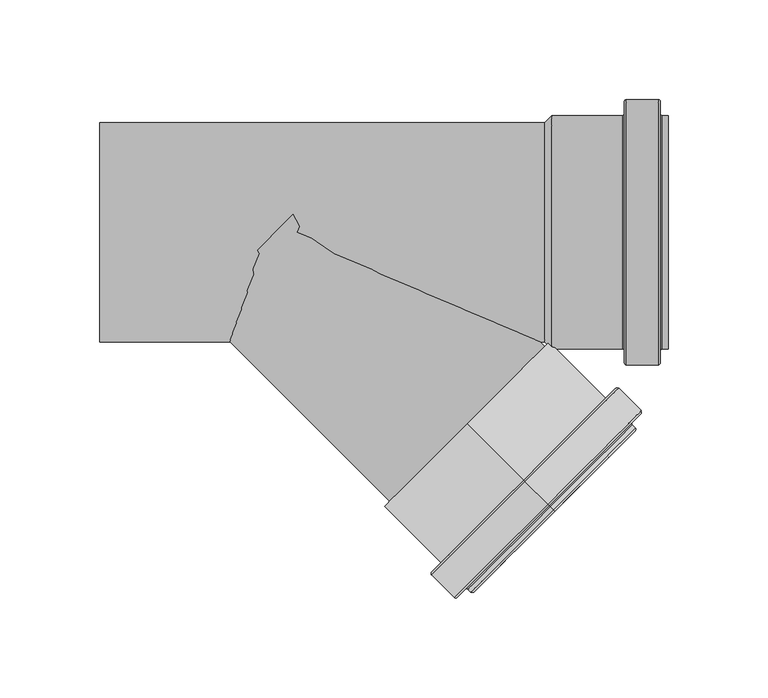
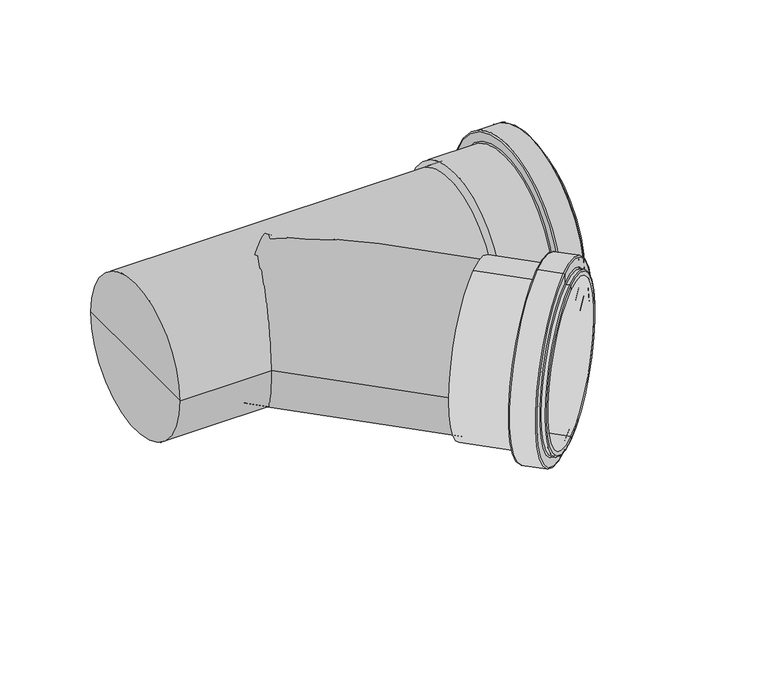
"""IFC4 building model written with IfcOpenShell, lengths in millimetres: pipe fitting geometry, MarleyPlumbingAndDrainage_PipeFitting_dBlueEqualBranch_VTR : VTR-110-110-45D - 110mm - Blue."""

from ifc_helpers import new_model, si_unit, point, frame, origin, origin_2d, place, context, project, spatial, polyline, circle_curve, ellipse_curve, trimmed, segment, composite_curve, outline, extrude, source, transform, mapped, element, save
from ifc_brep_helpers import plane_surface, cylinder_surface, revolved_surface, advanced_brep


def pipe_fitting_c605c0b5(model_context):
    return source(origin(), model_context, "Body", "SolidModel", [
        advanced_brep(
        [(81.3411404, -96.1665222, -58.5), (81.3411404, -96.1665222, 58.5), (81.3411404, -96.1665222, 55.0), (81.3411404, -96.1665222, -55.0), (109.6254117, -124.4507935, -58.5), (109.6254117, -124.4507935, 58.5), (109.6254117, -124.4507935, -65.5), (109.6254117, -124.4507935, 65.5), (121.6462269, -136.4716088, -66.5), (121.6462269, -136.4716088, 66.5), (110.3325184, -125.1579003, 66.5), (110.3325184, -125.1579003, -66.5), (122.3533337, -137.1787156, -59.5), (122.3533337, -137.1787156, 59.5), (122.3533337, -137.1787156, 65.5), (122.3533337, -137.1787156, -65.5), (124.4746541, -139.3000359, -58.5), (124.4746541, -139.3000359, 58.5), (123.0604405, -137.8858223, 58.5), (123.0604405, -137.8858223, -58.5), (125.1817609, -140.0071427, -55.0), (125.1817609, -140.0071427, 55.0), (125.1817609, -140.0071427, 57.5), (125.1817609, -140.0071427, -57.5)],
        [
            (0, 1, circle_curve(frame((81.3411404, -96.1665222, 0.0), z_axis=(-0.7071067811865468, 0.7071067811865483, 0.0), x_axis=(0.0, 0.0, 1.0000000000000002)), 58.5)),
            (1, 2),
            (2, 3, circle_curve(frame((81.3411404, -96.1665222, 0.0), z_axis=(0.7071067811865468, -0.7071067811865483, 0.0), x_axis=(0.0, 0.0, 1.0000000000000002)), 55.0)),
            (3, 0),
            (1, 0, circle_curve(frame((81.3411404, -96.1665222, 0.0), z_axis=(-0.7071067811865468, 0.7071067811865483, 0.0), x_axis=(0.0, 0.0, 1.0000000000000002)), 58.5)),
            (3, 2, circle_curve(frame((81.3411404, -96.1665222, 0.0), z_axis=(0.7071067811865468, -0.7071067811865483, 0.0), x_axis=(0.0, 0.0, 1.0000000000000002)), 55.0)),
            (4, 5, circle_curve(frame((109.6254117, -124.4507935, 0.0), z_axis=(-0.7071067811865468, 0.7071067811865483, 0.0), x_axis=(0.0, 0.0, 1.0000000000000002)), 58.5)),
            (5, 1),
            (0, 4),
            (5, 4, circle_curve(frame((109.6254117, -124.4507935, 0.0), z_axis=(-0.7071067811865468, 0.7071067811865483, 0.0), x_axis=(0.0, 0.0, 1.0000000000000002)), 58.5)),
            (6, 7, circle_curve(frame((109.6254117, -124.4507935, 0.0), z_axis=(-0.7071067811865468, 0.7071067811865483, 0.0), x_axis=(0.0, 0.0, 1.0000000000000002)), 65.5)),
            (7, 5),
            (4, 6),
            (7, 6, circle_curve(frame((109.6254117, -124.4507935, 0.0), z_axis=(-0.7071067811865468, 0.7071067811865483, 0.0), x_axis=(0.0, 0.0, 1.0000000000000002)), 65.5)),
            (8, 9, circle_curve(frame((121.6462269, -136.4716088, 0.0), z_axis=(-0.7071067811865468, 0.7071067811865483, 0.0), x_axis=(0.0, 0.0, 1.0000000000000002)), 66.5)),
            (9, 10),
            (10, 11, circle_curve(frame((110.3325184, -125.1579003, 0.0), z_axis=(0.7071067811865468, -0.7071067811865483, 0.0), x_axis=(0.0, 0.0, 1.0000000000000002)), 66.5)),
            (11, 8),
            (9, 8, circle_curve(frame((121.6462269, -136.4716088, 0.0), z_axis=(-0.7071067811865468, 0.7071067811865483, 0.0), x_axis=(0.0, 0.0, 1.0000000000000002)), 66.5)),
            (11, 10, circle_curve(frame((110.3325184, -125.1579003, 0.0), z_axis=(0.7071067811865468, -0.7071067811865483, 0.0), x_axis=(0.0, 0.0, 1.0000000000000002)), 66.5)),
            (12, 13, circle_curve(frame((122.3533337, -137.1787156, 0.0), z_axis=(-0.7071067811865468, 0.7071067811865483, 0.0), x_axis=(0.0, 0.0, 1.0000000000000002)), 59.5)),
            (13, 14),
            (14, 15, circle_curve(frame((122.3533337, -137.1787156, 0.0), z_axis=(0.7071067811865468, -0.7071067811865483, 0.0), x_axis=(0.0, 0.0, 1.0000000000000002)), 65.5)),
            (15, 12),
            (13, 12, circle_curve(frame((122.3533337, -137.1787156, 0.0), z_axis=(-0.7071067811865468, 0.7071067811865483, 0.0), x_axis=(0.0, 0.0, 1.0000000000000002)), 59.5)),
            (15, 14, circle_curve(frame((122.3533337, -137.1787156, 0.0), z_axis=(0.7071067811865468, -0.7071067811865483, 0.0), x_axis=(0.0, 0.0, 1.0000000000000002)), 65.5)),
            (16, 17, circle_curve(frame((124.4746541, -139.3000359, 0.0), z_axis=(-0.7071067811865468, 0.7071067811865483, 0.0), x_axis=(0.0, 0.0, 1.0000000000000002)), 58.5)),
            (17, 18),
            (18, 19, circle_curve(frame((123.0604405, -137.8858223, 0.0), z_axis=(0.7071067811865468, -0.7071067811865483, 0.0), x_axis=(0.0, 0.0, 1.0000000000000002)), 58.5)),
            (19, 16),
            (17, 16, circle_curve(frame((124.4746541, -139.3000359, 0.0), z_axis=(-0.7071067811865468, 0.7071067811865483, 0.0), x_axis=(0.0, 0.0, 1.0000000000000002)), 58.5)),
            (19, 18, circle_curve(frame((123.0604405, -137.8858223, 0.0), z_axis=(0.7071067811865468, -0.7071067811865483, 0.0), x_axis=(0.0, 0.0, 1.0000000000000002)), 58.5)),
            (20, 21, circle_curve(frame((125.1817609, -140.0071427, 0.0), z_axis=(-0.7071067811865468, 0.7071067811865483, 0.0), x_axis=(0.0, 0.0, 1.0000000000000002)), 55.0)),
            (21, 22),
            (22, 23, circle_curve(frame((125.1817609, -140.0071427, 0.0), z_axis=(0.7071067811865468, -0.7071067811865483, 0.0), x_axis=(0.0, 0.0, 1.0000000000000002)), 57.5)),
            (23, 20),
            (21, 20, circle_curve(frame((125.1817609, -140.0071427, 0.0), z_axis=(-0.7071067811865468, 0.7071067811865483, 0.0), x_axis=(0.0, 0.0, 1.0000000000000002)), 55.0)),
            (23, 22, circle_curve(frame((125.1817609, -140.0071427, 0.0), z_axis=(0.7071067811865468, -0.7071067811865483, 0.0), x_axis=(0.0, 0.0, 1.0000000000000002)), 57.5)),
            (2, 21),
            (20, 3),
            (10, 7, circle_curve(frame((110.3325184, -125.1579003, 65.5), z_axis=(-0.7071067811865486, -0.707106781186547, 0.0), x_axis=(0.4999999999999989, -0.5, 0.7071067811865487)), 1.0)),
            (6, 11, circle_curve(frame((110.3325184, -125.1579003, -65.5), z_axis=(-0.7071067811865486, -0.707106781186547, 0.0), x_axis=(0.5000000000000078, -0.5000000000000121, -0.7071067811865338)), 1.0)),
            (14, 9, circle_curve(frame((121.6462269, -136.4716088, 65.5), z_axis=(-0.7071067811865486, -0.707106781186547, 0.0), x_axis=(0.4999999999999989, -0.5, 0.7071067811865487)), 1.0)),
            (8, 15, circle_curve(frame((121.6462269, -136.4716088, -65.5), z_axis=(-0.7071067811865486, -0.707106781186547, 0.0), x_axis=(0.5000000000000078, -0.5000000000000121, -0.7071067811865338)), 1.0)),
            (18, 13, circle_curve(frame((123.0604405, -137.8858223, 59.5), z_axis=(0.7071067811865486, 0.707106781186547, 0.0), x_axis=(0.4999999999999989, -0.5, 0.7071067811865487)), 1.0)),
            (12, 19, circle_curve(frame((123.0604405, -137.8858223, -59.5), z_axis=(0.7071067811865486, 0.707106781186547, 0.0), x_axis=(0.5000000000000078, -0.5000000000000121, -0.7071067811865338)), 1.0)),
            (22, 17, circle_curve(frame((124.4746541, -139.3000359, 57.5), z_axis=(-0.7071067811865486, -0.707106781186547, 0.0), x_axis=(0.4999999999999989, -0.5, 0.7071067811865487)), 1.0)),
            (16, 23, circle_curve(frame((124.4746541, -139.3000359, -57.5), z_axis=(-0.7071067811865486, -0.707106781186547, 0.0), x_axis=(0.5000000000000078, -0.5000000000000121, -0.7071067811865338)), 1.0)),
        ],
        [
            plane_surface(frame((81.3411404, -96.1665222, 0.0), z_axis=(-0.7071067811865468, 0.7071067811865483, 0.0), x_axis=(0.0, 0.0, 1.0))),
            cylinder_surface(frame((159.8299931, -174.655375, 0.0), z_axis=(0.7071067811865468, -0.7071067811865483, 0.0), x_axis=(0.0, 0.0, 1.0000000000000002)), 58.5),
            plane_surface(frame((109.6254117, -124.4507935, 0.0), z_axis=(-0.7071067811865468, 0.7071067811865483, 0.0), x_axis=(0.0, 0.0, 1.0))),
            cylinder_surface(frame((159.8299931, -174.655375, 0.0), z_axis=(0.7071067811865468, -0.7071067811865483, 0.0), x_axis=(0.0, 0.0, 1.0000000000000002)), 66.5),
            plane_surface(frame((122.3533337, -137.1787156, 0.0), z_axis=(0.7071067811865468, -0.7071067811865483, 0.0), x_axis=(0.0, 0.0, 1.0))),
            plane_surface(frame((125.1817609, -140.0071427, 0.0), z_axis=(0.7071067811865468, -0.7071067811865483, 0.0), x_axis=(0.0, 0.0, 1.0))),
            revolved_surface(polyline([(125.18176085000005, -140.00714274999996, 55.000000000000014), (81.34114035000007, -96.1665222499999, 55.000000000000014)]), (159.8299931, -174.655375, 0.0), (0.7071067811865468, -0.7071067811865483, 0.0)),
            revolved_surface(trimmed(ellipse_curve(frame((110.3325184, -125.1579003, 65.5), z_axis=(0.7071067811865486, 0.707106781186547, 0.0), x_axis=(0.4999999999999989, -0.5, 0.7071067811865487)), 1.0, 1.0), [point((109.6254117, -124.4507935, 65.5))], [point((110.3325184, -125.1579003, 66.5))], True, "CARTESIAN"), (159.8299931, -174.655375, 0.0), (0.7071067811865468, -0.7071067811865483, 0.0)),
            revolved_surface(trimmed(ellipse_curve(frame((110.3325184, -125.1579003, 65.5), z_axis=(0.7071067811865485, 0.7071067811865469, 0.0), x_axis=(0.4999999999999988, -0.4999999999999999, 0.7071067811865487)), 1.0, 1.0), [point((109.6254117, -124.4507935, 65.5))], [point((110.3325184, -125.1579003, 66.5))], True, "CARTESIAN"), (159.8299931, -174.655375, 0.0), (0.7071067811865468, -0.7071067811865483, 0.0)),
            revolved_surface(trimmed(ellipse_curve(frame((121.6462269, -136.4716088, 65.5), z_axis=(0.7071067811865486, 0.707106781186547, 0.0), x_axis=(0.4999999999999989, -0.5, 0.7071067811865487)), 1.0, 1.0), [point((121.6462269, -136.4716088, 66.5))], [point((122.3533337, -137.1787156, 65.5))], True, "CARTESIAN"), (159.8299931, -174.655375, 0.0), (0.7071067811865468, -0.7071067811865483, 0.0)),
            revolved_surface(trimmed(ellipse_curve(frame((121.6462269, -136.4716088, 65.5), z_axis=(0.7071067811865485, 0.7071067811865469, 0.0), x_axis=(0.4999999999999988, -0.4999999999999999, 0.7071067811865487)), 1.0, 1.0), [point((121.6462269, -136.4716088, 66.5))], [point((122.3533337, -137.1787156, 65.5))], True, "CARTESIAN"), (159.8299931, -174.655375, 0.0), (0.7071067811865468, -0.7071067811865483, 0.0)),
            revolved_surface(trimmed(ellipse_curve(frame((123.0604405, -137.8858223, 59.5), z_axis=(-0.7071067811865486, -0.707106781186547, 0.0), x_axis=(0.4999999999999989, -0.5, 0.7071067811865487)), 1.0, 1.0), [point((122.3533337, -137.1787156, 59.5))], [point((123.0604405, -137.8858223, 58.5))], True, "CARTESIAN"), (159.8299931, -174.655375, 0.0), (0.7071067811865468, -0.7071067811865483, 0.0)),
            revolved_surface(trimmed(ellipse_curve(frame((123.0604405, -137.8858223, 59.5), z_axis=(-0.7071067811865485, -0.7071067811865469, 0.0), x_axis=(0.4999999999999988, -0.4999999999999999, 0.7071067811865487)), 1.0, 1.0), [point((122.3533337, -137.1787156, 59.5))], [point((123.0604405, -137.8858223, 58.5))], True, "CARTESIAN"), (159.8299931, -174.655375, 0.0), (0.7071067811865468, -0.7071067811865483, 0.0)),
            revolved_surface(trimmed(ellipse_curve(frame((124.4746541, -139.3000359, 57.5), z_axis=(0.7071067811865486, 0.707106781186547, 0.0), x_axis=(0.4999999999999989, -0.5, 0.7071067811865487)), 1.0, 1.0), [point((124.4746541, -139.3000359, 58.5))], [point((125.1817609, -140.0071427, 57.5))], True, "CARTESIAN"), (159.8299931, -174.655375, 0.0), (0.7071067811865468, -0.7071067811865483, 0.0)),
            revolved_surface(trimmed(ellipse_curve(frame((124.4746541, -139.3000359, 57.5), z_axis=(0.7071067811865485, 0.7071067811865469, 0.0), x_axis=(0.4999999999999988, -0.4999999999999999, 0.7071067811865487)), 1.0, 1.0), [point((124.4746541, -139.3000359, 58.5))], [point((125.1817609, -140.0071427, 57.5))], True, "CARTESIAN"), (159.8299931, -174.655375, 0.0), (0.7071067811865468, -0.7071067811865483, 0.0)),
        ],
        [
            (0, [[1, 2, 3, 4]]),
            (0, [[5, -4, 6, -2]]),
            (1, [[7, 8, -1, 9]]),
            (1, [[10, -9, -5, -8]]),
            (2, [[11, 12, -7, 13]]),
            (2, [[14, -13, -10, -12]]),
            (3, [[15, 16, 17, 18]]),
            (3, [[19, -18, 20, -16]]),
            (4, [[21, 22, 23, 24]]),
            (4, [[25, -24, 26, -22]]),
            (1, [[27, 28, 29, 30]]),
            (1, [[31, -30, 32, -28]]),
            (5, [[33, 34, 35, 36]]),
            (5, [[37, -36, 38, -34]]),
            (6, [[-3, 39, -33, 40]]),
            (6, [[-6, -40, -37, -39]]),
            (7, [[-17, 41, -11, 42]]),
            (8, [[-20, -42, -14, -41]]),
            (9, [[-23, 43, -15, 44]]),
            (10, [[-26, -44, -19, -43]]),
            (11, [[-29, 45, -21, 46]]),
            (12, [[-32, -46, -25, -45]]),
            (13, [[-35, 47, -27, 48]]),
            (14, [[-38, -48, -31, -47]]),
        ],
    ),
        extrude(outline(composite_curve([segment(trimmed(circle_curve(origin_2d(), 55.0), [point((0.0, -55.0))], [point((0.0, 55.0))], False, "CARTESIAN"), True, "CONTINUOUS"), segment(trimmed(circle_curve(origin_2d(), 55.0), [point((0.0, 55.0))], [point((0.0, -55.0))], False, "CARTESIAN"), True, "CONTINUOUS")], self_intersect=False)), frame((81.3411404, -96.1665222, 0.0), z_axis=(-0.7071067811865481, 0.707106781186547, 0.0), x_axis=(0.0, 0.0, 1.0)), (0.0, 0.0, 1.0), 136.0),
        advanced_brep(
        [(179.1746182, -58.5, 0.0), (179.1746182, 58.5, 0.0), (182.1746182, 58.5, 0.0), (182.1746182, -58.5, 0.0), (178.1746182, -65.5, 0.0), (178.1746182, 65.5, 0.0), (178.1746182, 59.5, 0.0), (178.1746182, -59.5, 0.0), (161.1746182, -66.5, 0.0), (161.1746182, 66.5, 0.0), (177.1746182, 66.5, 0.0), (177.1746182, -66.5, 0.0), (160.1746182, -59.5, 0.0), (160.1746182, 59.5, 0.0), (160.1746182, 65.5, 0.0), (160.1746182, -65.5, 0.0), (123.6746182, -58.5, 0.0), (123.6746182, 58.5, 0.0), (159.1746182, 58.5, 0.0), (159.1746182, -58.5, 0.0), (120.1746182, -55.0, 0.0), (120.1746182, 55.0, 0.0), (-102.8253818, -55.0, 0.0), (-102.8253818, 55.0, 0.0), (-102.8253818, 0.0, 0.0), (123.6746182, -55.0, 0.0), (123.6746182, 55.0, 0.0), (123.6746182, 0.0, 0.0), (182.1746182, -55.0, 0.0), (182.1746182, 55.0, 0.0)],
        [
            (0, 1, circle_curve(frame((179.1746182, 0.0, 0.0), z_axis=(1.0, 0.0, 0.0), x_axis=(0.0, 1.0, 0.0)), 58.5)),
            (1, 2),
            (2, 3, circle_curve(frame((182.1746182, 0.0, 0.0), z_axis=(-1.0, 0.0, 0.0), x_axis=(0.0, 1.0, 0.0)), 58.5)),
            (3, 0),
            (1, 0, circle_curve(frame((179.1746182, 0.0, 0.0), z_axis=(1.0, 0.0, 0.0), x_axis=(0.0, 1.0, 0.0)), 58.5)),
            (3, 2, circle_curve(frame((182.1746182, 0.0, 0.0), z_axis=(-1.0, 0.0, 0.0), x_axis=(0.0, 1.0, 0.0)), 58.5)),
            (4, 5, circle_curve(frame((178.1746182, 0.0, 0.0), z_axis=(1.0, 0.0, 0.0), x_axis=(0.0, 1.0, 0.0)), 65.5)),
            (5, 6),
            (6, 7, circle_curve(frame((178.1746182, 0.0, 0.0), z_axis=(-1.0, 0.0, 0.0), x_axis=(0.0, 1.0, 0.0)), 59.5)),
            (7, 4),
            (5, 4, circle_curve(frame((178.1746182, 0.0, 0.0), z_axis=(1.0, 0.0, 0.0), x_axis=(0.0, 1.0, 0.0)), 65.5)),
            (7, 6, circle_curve(frame((178.1746182, 0.0, 0.0), z_axis=(-1.0, 0.0, 0.0), x_axis=(0.0, 1.0, 0.0)), 59.5)),
            (8, 9, circle_curve(frame((161.1746182, 0.0, 0.0), z_axis=(1.0, 0.0, 0.0), x_axis=(0.0, 1.0, 0.0)), 66.5)),
            (9, 10),
            (10, 11, circle_curve(frame((177.1746182, 0.0, 0.0), z_axis=(-1.0, 0.0, 0.0), x_axis=(0.0, 1.0, 0.0)), 66.5)),
            (11, 8),
            (9, 8, circle_curve(frame((161.1746182, 0.0, 0.0), z_axis=(1.0, 0.0, 0.0), x_axis=(0.0, 1.0, 0.0)), 66.5)),
            (11, 10, circle_curve(frame((177.1746182, 0.0, 0.0), z_axis=(-1.0, 0.0, 0.0), x_axis=(0.0, 1.0, 0.0)), 66.5)),
            (12, 13, circle_curve(frame((160.1746182, 0.0, 0.0), z_axis=(1.0, 0.0, 0.0), x_axis=(0.0, 1.0, 0.0)), 59.5)),
            (13, 14),
            (14, 15, circle_curve(frame((160.1746182, 0.0, 0.0), z_axis=(-1.0, 0.0, 0.0), x_axis=(0.0, 1.0, 0.0)), 65.5)),
            (15, 12),
            (13, 12, circle_curve(frame((160.1746182, 0.0, 0.0), z_axis=(1.0, 0.0, 0.0), x_axis=(0.0, 1.0, 0.0)), 59.5)),
            (15, 14, circle_curve(frame((160.1746182, 0.0, 0.0), z_axis=(-1.0, 0.0, 0.0), x_axis=(0.0, 1.0, 0.0)), 65.5)),
            (16, 17, circle_curve(frame((123.6746182, 0.0, 0.0), z_axis=(1.0, 0.0, 0.0), x_axis=(0.0, 1.0, 0.0)), 58.5)),
            (17, 18),
            (18, 19, circle_curve(frame((159.1746182, 0.0, 0.0), z_axis=(-1.0, 0.0, 0.0), x_axis=(0.0, 1.0, 0.0)), 58.5)),
            (19, 16),
            (17, 16, circle_curve(frame((123.6746182, 0.0, 0.0), z_axis=(1.0, 0.0, 0.0), x_axis=(0.0, 1.0, 0.0)), 58.5)),
            (19, 18, circle_curve(frame((159.1746182, 0.0, 0.0), z_axis=(-1.0, 0.0, 0.0), x_axis=(0.0, 1.0, 0.0)), 58.5)),
            (20, 21, circle_curve(frame((120.1746182, 0.0, 0.0), z_axis=(1.0, 0.0, 0.0), x_axis=(0.0, 1.0, 0.0)), 55.0)),
            (21, 17),
            (16, 20),
            (21, 20, circle_curve(frame((120.1746182, 0.0, 0.0), z_axis=(1.0, 0.0, 0.0), x_axis=(0.0, 1.0, 0.0)), 55.0)),
            (22, 23, circle_curve(frame((-102.8253818, 0.0, 0.0), z_axis=(1.0, 0.0, 0.0), x_axis=(0.0, 1.0, 0.0)), 55.0)),
            (23, 21),
            (20, 22),
            (23, 22, circle_curve(frame((-102.8253818, 0.0, 0.0), z_axis=(1.0, 0.0, 0.0), x_axis=(0.0, 1.0, 0.0)), 55.0)),
            (24, 23),
            (22, 24),
            (25, 26, circle_curve(frame((123.6746182, 0.0, 0.0), z_axis=(1.0, 0.0, 0.0), x_axis=(0.0, 1.0, 0.0)), 55.0)),
            (26, 27),
            (27, 25),
            (26, 25, circle_curve(frame((123.6746182, 0.0, 0.0), z_axis=(1.0, 0.0, 0.0), x_axis=(0.0, 1.0, 0.0)), 55.0)),
            (28, 29, circle_curve(frame((182.1746182, 0.0, 0.0), z_axis=(1.0, 0.0, 0.0), x_axis=(0.0, 1.0, 0.0)), 55.0)),
            (29, 26),
            (25, 28),
            (29, 28, circle_curve(frame((182.1746182, 0.0, 0.0), z_axis=(1.0, 0.0, 0.0), x_axis=(0.0, 1.0, 0.0)), 55.0)),
            (2, 29),
            (28, 3),
            (6, 1, circle_curve(frame((179.1746182, 59.5, 0.0), z_axis=(0.0, 0.0, 1.0), x_axis=(1.0, 0.0, 0.0)), 1.0)),
            (0, 7, circle_curve(frame((179.1746182, -59.5, 0.0), z_axis=(0.0, 0.0, 1.0), x_axis=(1.0, 0.0, 0.0)), 1.0)),
            (10, 5, circle_curve(frame((177.1746182, 65.5, 0.0), z_axis=(0.0, 0.0, -1.0), x_axis=(1.0, 0.0, 0.0)), 1.0)),
            (4, 11, circle_curve(frame((177.1746182, -65.5, 0.0), z_axis=(0.0, 0.0, -1.0), x_axis=(1.0, 0.0, 0.0)), 1.0)),
            (14, 9, circle_curve(frame((161.1746182, 65.5, 0.0), z_axis=(0.0, 0.0, -1.0), x_axis=(1.0, 0.0, 0.0)), 1.0)),
            (8, 15, circle_curve(frame((161.1746182, -65.5, 0.0), z_axis=(0.0, 0.0, -1.0), x_axis=(1.0, 0.0, 0.0)), 1.0)),
            (18, 13, circle_curve(frame((159.1746182, 59.5, 0.0), z_axis=(0.0, 0.0, 1.0), x_axis=(1.0, 0.0, 0.0)), 1.0)),
            (12, 19, circle_curve(frame((159.1746182, -59.5, 0.0), z_axis=(0.0, 0.0, 1.0), x_axis=(1.0, 0.0, 0.0)), 1.0)),
        ],
        [
            cylinder_surface(frame((1996.0, 0.0, 0.0), z_axis=(-1.0, 0.0, 0.0), x_axis=(0.0, 1.0, 0.0)), 58.5),
            plane_surface(frame((178.1746182, 0.0, 0.0), z_axis=(1.0, 0.0, 0.0), x_axis=(0.0, 1.0, 0.0))),
            cylinder_surface(frame((1996.0, 0.0, 0.0), z_axis=(-1.0, 0.0, 0.0), x_axis=(0.0, 1.0, 0.0)), 66.5),
            plane_surface(frame((160.1746182, 0.0, 0.0), z_axis=(-1.0, 0.0, 0.0), x_axis=(0.0, 1.0, 0.0))),
            revolved_surface(polyline([(123.6746182, 58.5, 0.0), (120.1746182, 55.0, 0.0)]), (1996.0, 0.0, 0.0), (-1.0, 0.0, 0.0)),
            cylinder_surface(frame((1996.0, 0.0, 0.0), z_axis=(-1.0, 0.0, 0.0), x_axis=(0.0, 1.0, 0.0)), 55.0),
            plane_surface(frame((-102.8253818, 0.0, 0.0), z_axis=(-1.0, 0.0, 0.0), x_axis=(0.0, 1.0, 0.0))),
            plane_surface(frame((123.6746182, 0.0, 0.0), z_axis=(1.0, 0.0, 0.0), x_axis=(0.0, 1.0, 0.0))),
            revolved_surface(polyline([(123.67461819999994, 55.0, 0.0), (182.17461819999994, 55.0, 0.0)]), (1996.0, 0.0, 0.0), (-1.0, 0.0, 0.0)),
            plane_surface(frame((182.1746182, 0.0, 0.0), z_axis=(1.0, 0.0, 0.0), x_axis=(0.0, 1.0, 0.0))),
            revolved_surface(trimmed(ellipse_curve(frame((179.1746182, 59.5, 0.0), z_axis=(0.0, 0.0, -1.0), x_axis=(1.0, 0.0, 0.0)), 1.0, 1.0), [point((179.1746182, 58.5, 0.0))], [point((178.1746182, 59.5, 0.0))], True, "CARTESIAN"), (1996.0, 0.0, 0.0), (-1.0, 0.0, 0.0)),
            revolved_surface(trimmed(ellipse_curve(frame((177.1746182, 65.5, 0.0), z_axis=(0.0, 0.0, 1.0), x_axis=(1.0, 0.0, 0.0)), 1.0, 1.0), [point((178.1746182, 65.5, 0.0))], [point((177.1746182, 66.5, 0.0))], True, "CARTESIAN"), (1996.0, 0.0, 0.0), (-1.0, 0.0, 0.0)),
            revolved_surface(trimmed(ellipse_curve(frame((161.1746182, 65.5, 0.0), z_axis=(0.0, 0.0, 1.0), x_axis=(1.0, 0.0, 0.0)), 1.0, 1.0), [point((161.1746182, 66.5, 0.0))], [point((160.1746182, 65.5, 0.0))], True, "CARTESIAN"), (1996.0, 0.0, 0.0), (-1.0, 0.0, 0.0)),
            revolved_surface(trimmed(ellipse_curve(frame((159.1746182, 59.5, 0.0), z_axis=(0.0, 0.0, -1.0), x_axis=(1.0, 0.0, 0.0)), 1.0, 1.0), [point((160.1746182, 59.5, 0.0))], [point((159.1746182, 58.5, 0.0))], True, "CARTESIAN"), (1996.0, 0.0, 0.0), (-1.0, 0.0, 0.0)),
        ],
        [
            (0, [[1, 2, 3, 4]]),
            (0, [[5, -4, 6, -2]]),
            (1, [[7, 8, 9, 10]]),
            (1, [[11, -10, 12, -8]]),
            (2, [[13, 14, 15, 16]]),
            (2, [[17, -16, 18, -14]]),
            (3, [[19, 20, 21, 22]]),
            (3, [[23, -22, 24, -20]]),
            (0, [[25, 26, 27, 28]]),
            (0, [[29, -28, 30, -26]]),
            (4, [[31, 32, -25, 33]]),
            (4, [[34, -33, -29, -32]]),
            (5, [[35, 36, -31, 37]]),
            (5, [[38, -37, -34, -36]]),
            (6, [[39, -35, 40]]),
            (6, [[-40, -38, -39]]),
            (7, [[41, 42, 43]]),
            (7, [[44, -43, -42]]),
            (8, [[45, 46, -41, 47]]),
            (8, [[48, -47, -44, -46]]),
            (9, [[-3, 49, -45, 50]]),
            (9, [[-6, -50, -48, -49]]),
            (10, [[-9, 51, -1, 52]]),
            (10, [[-12, -52, -5, -51]]),
            (11, [[-15, 53, -7, 54]]),
            (11, [[-18, -54, -11, -53]]),
            (12, [[-21, 55, -13, 56]]),
            (12, [[-24, -56, -17, -55]]),
            (13, [[-27, 57, -19, 58]]),
            (13, [[-30, -58, -23, -57]]),
        ],
    ),
    ])


if __name__ == "__main__":
    model = new_model("IFC4")
    model_context = context("Model", 3, world=origin())
    ifc_project = project(units=[si_unit("LENGTHUNIT", "METRE", prefix="MILLI")], contexts=[model_context])
    site = spatial("IfcSite", under=ifc_project)
    building = spatial("IfcBuilding", under=site)
    placement = place(None, origin())
    pipe_fitting_shape = pipe_fitting_c605c0b5(model_context)
    element("IfcPipeFitting", 1, ObjectType="MarleyPlumbingAndDrainage_PipeFitting_dBlueEqualBranch_VTR : VTR-110-110-45D - 110mm - Blue", at=placement, inside=building, context=model_context, shape_type="MappedRepresentation", body=[
        mapped(pipe_fitting_shape, transform((0.0, 0.0, 0.0), x_axis=(1.0, 0.0, 0.0), y_axis=(0.0, 1.0, 0.0), z_axis=(0.0, 0.0, 1.0))),
    ])
    save(model, "model.ifc")
